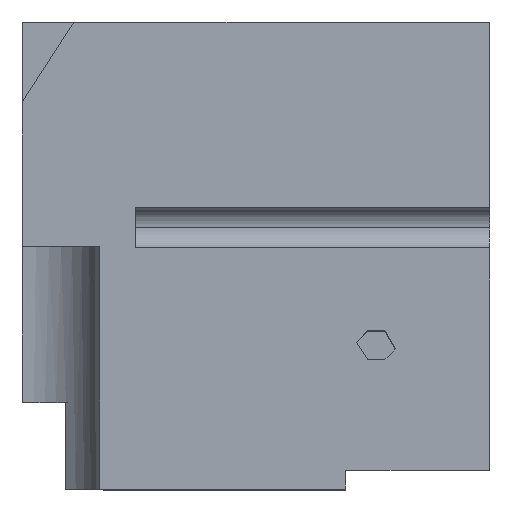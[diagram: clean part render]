
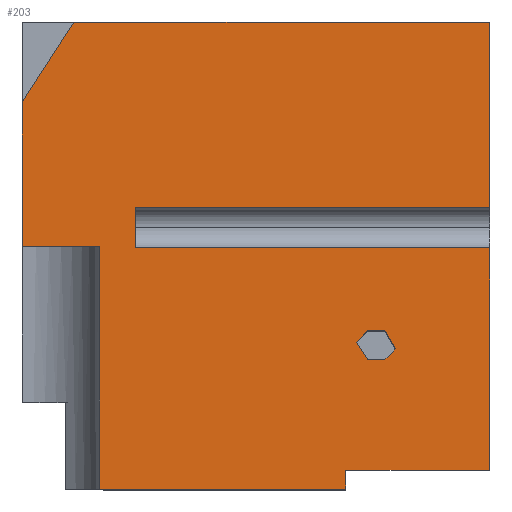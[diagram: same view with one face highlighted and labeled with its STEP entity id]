
A CAD part, top view. The second image highlights one B-rep face of the part: STEP entity #203.
In plain terms, the highlighted planar face has unit normal (0, 0, 1).
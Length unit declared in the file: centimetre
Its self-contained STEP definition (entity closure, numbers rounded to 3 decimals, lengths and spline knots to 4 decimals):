
#1 = VECTOR ( 'NONE', #453, 100. ) ;
#3 = LINE ( 'NONE', #862, #888 ) ;
#5 = VERTEX_POINT ( 'NONE', #664 ) ;
#10 = CARTESIAN_POINT ( 'NONE',  ( 692.0685, 0., 1000. ) ) ;
#12 = CARTESIAN_POINT ( 'NONE',  ( 739.4642, 277.8204, 1000. ) ) ;
#19 = CARTESIAN_POINT ( 'NONE',  ( 165.4097, 0., 1000. ) ) ;
#20 = VECTOR ( 'NONE', #293, 100. ) ;
#22 = VERTEX_POINT ( 'NONE', #864 ) ;
#23 = CARTESIAN_POINT ( 'NONE',  ( 1000., 1000., 1000. ) ) ;
#28 = EDGE_CURVE ( 'NONE', #1068, #166, #580, .T. ) ;
#44 = ORIENTED_EDGE ( 'NONE', *, *, #28, .T. ) ;
#45 = EDGE_CURVE ( 'NONE', #1140, #347, #187, .T. ) ;
#46 = CARTESIAN_POINT ( 'NONE',  ( 1000., 516.3748, 1000. ) ) ;
#58 = VERTEX_POINT ( 'NONE', #307 ) ;
#80 = ORIENTED_EDGE ( 'NONE', *, *, #1217, .T. ) ;
#82 = EDGE_CURVE ( 'NONE', #956, #58, #796, .T. ) ;
#90 = LINE ( 'NONE', #672, #288 ) ;
#93 = VERTEX_POINT ( 'NONE', #891 ) ;
#95 = CARTESIAN_POINT ( 'NONE',  ( 692.0685, 0., 1000. ) ) ;
#98 = LINE ( 'NONE', #384, #20 ) ;
#100 = LINE ( 'NONE', #10, #545 ) ;
#114 = LINE ( 'NONE', #883, #1145 ) ;
#121 = EDGE_CURVE ( 'NONE', #535, #1096, #114, .T. ) ;
#128 = EDGE_CURVE ( 'NONE', #22, #424, #100, .T. ) ;
#129 = CARTESIAN_POINT ( 'NONE',  ( 739.4642, 338.8694, 1000. ) ) ;
#140 = VERTEX_POINT ( 'NONE', #488 ) ;
#141 = VERTEX_POINT ( 'NONE', #19 ) ;
#153 = VERTEX_POINT ( 'NONE', #1176 ) ;
#166 = VERTEX_POINT ( 'NONE', #705 ) ;
#177 = DIRECTION ( 'NONE',  ( 0., 1., 0. ) ) ;
#187 = LINE ( 'NONE', #577, #1235 ) ;
#189 = CARTESIAN_POINT ( 'NONE',  ( 241.1081, 603.6279, 1000. ) ) ;
#202 = DIRECTION ( 'NONE',  ( 0., -1., 0. ) ) ;
#203 = ADVANCED_FACE ( 'NONE', ( #814, #807 ), #609, .T. ) ;
#213 = ORIENTED_EDGE ( 'NONE', *, *, #45, .F. ) ;
#214 = CARTESIAN_POINT ( 'NONE',  ( 798.3373, 300.2241, 1000. ) ) ;
#245 = VECTOR ( 'NONE', #1149, 100. ) ;
#266 = CARTESIAN_POINT ( 'NONE',  ( 715.2265, 314.6317, 1000. ) ) ;
#268 = CARTESIAN_POINT ( 'NONE',  ( 0., 519.0756, 1000. ) ) ;
#288 = VECTOR ( 'NONE', #463, 100. ) ;
#293 = DIRECTION ( 'NONE',  ( 0., 1., 0. ) ) ;
#307 = CARTESIAN_POINT ( 'NONE',  ( 775.9336, 277.8204, 1000. ) ) ;
#319 = AXIS2_PLACEMENT_3D ( 'NONE', #427, #800, #419 ) ;
#320 = CARTESIAN_POINT ( 'NONE',  ( 0., 1000., 1000. ) ) ;
#321 = CARTESIAN_POINT ( 'NONE',  ( 241.1081, 516.3748, 1000. ) ) ;
#334 = EDGE_LOOP ( 'NONE', ( #1012, #657, #949, #635, #213, #822 ) ) ;
#341 = CARTESIAN_POINT ( 'NONE',  ( 1000., 1000., 1000. ) ) ;
#347 = VERTEX_POINT ( 'NONE', #266 ) ;
#366 = VERTEX_POINT ( 'NONE', #737 ) ;
#377 = DIRECTION ( 'NONE',  ( 0., -1., 0. ) ) ;
#380 = LINE ( 'NONE', #481, #629 ) ;
#384 = CARTESIAN_POINT ( 'NONE',  ( 165.4097, 519.0756, 1000. ) ) ;
#417 = EDGE_CURVE ( 'NONE', #153, #140, #579, .T. ) ;
#419 = DIRECTION ( 'NONE',  ( 1., 0., 0. ) ) ;
#424 = VERTEX_POINT ( 'NONE', #95 ) ;
#427 = CARTESIAN_POINT ( 'NONE',  ( 0., 0., 1000. ) ) ;
#450 = CARTESIAN_POINT ( 'NONE',  ( 1000., 40.3197, 1000. ) ) ;
#453 = DIRECTION ( 'NONE',  ( 1., 0., 0. ) ) ;
#463 = DIRECTION ( 'NONE',  ( -1., 0., 0. ) ) ;
#481 = CARTESIAN_POINT ( 'NONE',  ( 241.1081, 0., 1000. ) ) ;
#484 = EDGE_CURVE ( 'NONE', #153, #535, #380, .T. ) ;
#488 = CARTESIAN_POINT ( 'NONE',  ( 1000., 603.6279, 1000. ) ) ;
#492 = ORIENTED_EDGE ( 'NONE', *, *, #778, .T. ) ;
#505 = DIRECTION ( 'NONE',  ( 1., 0., 0. ) ) ;
#510 = ORIENTED_EDGE ( 'NONE', *, *, #797, .T. ) ;
#512 = EDGE_CURVE ( 'NONE', #5, #1164, #777, .T. ) ;
#526 = ORIENTED_EDGE ( 'NONE', *, *, #963, .T. ) ;
#535 = VERTEX_POINT ( 'NONE', #321 ) ;
#544 = DIRECTION ( 'NONE',  ( 0., 1., 0. ) ) ;
#545 = VECTOR ( 'NONE', #202, 100. ) ;
#548 = VECTOR ( 'NONE', #666, 100. ) ;
#565 = LINE ( 'NONE', #1030, #548 ) ;
#577 = CARTESIAN_POINT ( 'NONE',  ( 739.4642, 338.8694, 1000. ) ) ;
#579 = LINE ( 'NONE', #189, #886 ) ;
#580 = LINE ( 'NONE', #268, #1 ) ;
#605 = VECTOR ( 'NONE', #873, 100. ) ;
#606 = VECTOR ( 'NONE', #544, 100. ) ;
#609 = PLANE ( 'NONE',  #319 ) ;
#629 = VECTOR ( 'NONE', #377, 100. ) ;
#630 = LINE ( 'NONE', #341, #606 ) ;
#635 = ORIENTED_EDGE ( 'NONE', *, *, #856, .F. ) ;
#647 = CARTESIAN_POINT ( 'NONE',  ( 109.6982, 1000., 1000. ) ) ;
#657 = ORIENTED_EDGE ( 'NONE', *, *, #871, .F. ) ;
#664 = CARTESIAN_POINT ( 'NONE',  ( 0., 829.1872, 1000. ) ) ;
#666 = DIRECTION ( 'NONE',  ( 1., 0., 0. ) ) ;
#672 = CARTESIAN_POINT ( 'NONE',  ( 775.9336, 338.8694, 1000. ) ) ;
#690 = VERTEX_POINT ( 'NONE', #450 ) ;
#697 = CARTESIAN_POINT ( 'NONE',  ( 739.4642, 277.8204, 1000. ) ) ;
#705 = CARTESIAN_POINT ( 'NONE',  ( 165.4097, 519.0756, 1000. ) ) ;
#728 = ORIENTED_EDGE ( 'NONE', *, *, #484, .F. ) ;
#732 = EDGE_CURVE ( 'NONE', #1013, #1164, #1022, .T. ) ;
#737 = CARTESIAN_POINT ( 'NONE',  ( 775.9336, 338.8694, 1000. ) ) ;
#744 = ORIENTED_EDGE ( 'NONE', *, *, #1119, .T. ) ;
#763 = LINE ( 'NONE', #1055, #835 ) ;
#768 = VECTOR ( 'NONE', #505, 100. ) ;
#774 = ORIENTED_EDGE ( 'NONE', *, *, #512, .F. ) ;
#777 = LINE ( 'NONE', #863, #605 ) ;
#778 = EDGE_CURVE ( 'NONE', #141, #424, #763, .T. ) ;
#796 = LINE ( 'NONE', #697, #768 ) ;
#797 = EDGE_CURVE ( 'NONE', #140, #1013, #940, .T. ) ;
#800 = DIRECTION ( 'NONE',  ( 0., 0., 1. ) ) ;
#803 = ORIENTED_EDGE ( 'NONE', *, *, #128, .F. ) ;
#807 = FACE_BOUND ( 'NONE', #334, .T. ) ;
#814 = FACE_OUTER_BOUND ( 'NONE', #1003, .T. ) ;
#822 = ORIENTED_EDGE ( 'NONE', *, *, #844, .F. ) ;
#835 = VECTOR ( 'NONE', #947, 100. ) ;
#844 = EDGE_CURVE ( 'NONE', #366, #1140, #90, .T. ) ;
#856 = EDGE_CURVE ( 'NONE', #347, #956, #3, .T. ) ;
#862 = CARTESIAN_POINT ( 'NONE',  ( 715.2265, 314.6317, 1000. ) ) ;
#863 = CARTESIAN_POINT ( 'NONE',  ( 0., 829.1872, 1000. ) ) ;
#864 = CARTESIAN_POINT ( 'NONE',  ( 692.0685, 40.3197, 1000. ) ) ;
#871 = EDGE_CURVE ( 'NONE', #58, #93, #1047, .T. ) ;
#873 = DIRECTION ( 'NONE',  ( 0.54, 0.841, 0. ) ) ;
#883 = CARTESIAN_POINT ( 'NONE',  ( 241.1081, 516.3748, 1000. ) ) ;
#886 = VECTOR ( 'NONE', #958, 100. ) ;
#888 = VECTOR ( 'NONE', #1247, 100. ) ;
#891 = CARTESIAN_POINT ( 'NONE',  ( 798.3373, 300.2241, 1000. ) ) ;
#893 = EDGE_CURVE ( 'NONE', #141, #166, #98, .T. ) ;
#930 = CARTESIAN_POINT ( 'NONE',  ( 0., 1000., 1000. ) ) ;
#940 = LINE ( 'NONE', #1137, #1111 ) ;
#947 = DIRECTION ( 'NONE',  ( 1., 0., 0. ) ) ;
#949 = ORIENTED_EDGE ( 'NONE', *, *, #82, .F. ) ;
#951 = VECTOR ( 'NONE', #1159, 100. ) ;
#956 = VERTEX_POINT ( 'NONE', #12 ) ;
#958 = DIRECTION ( 'NONE',  ( 1., 0., 0. ) ) ;
#963 = EDGE_CURVE ( 'NONE', #5, #1068, #1166, .T. ) ;
#972 = ORIENTED_EDGE ( 'NONE', *, *, #417, .T. ) ;
#973 = DIRECTION ( 'NONE',  ( 1., 0., 0. ) ) ;
#988 = DIRECTION ( 'NONE',  ( 0., -1., 0. ) ) ;
#1003 = EDGE_LOOP ( 'NONE', ( #774, #526, #44, #1158, #492, #803, #80, #744, #1208, #728, #972, #510, #1050 ) ) ;
#1012 = ORIENTED_EDGE ( 'NONE', *, *, #1040, .F. ) ;
#1013 = VERTEX_POINT ( 'NONE', #23 ) ;
#1022 = LINE ( 'NONE', #930, #1240 ) ;
#1029 = DIRECTION ( 'NONE',  ( -1., 0., 0. ) ) ;
#1030 = CARTESIAN_POINT ( 'NONE',  ( 692.0685, 40.3197, 1000. ) ) ;
#1040 = EDGE_CURVE ( 'NONE', #93, #366, #1080, .T. ) ;
#1047 = LINE ( 'NONE', #1251, #245 ) ;
#1050 = ORIENTED_EDGE ( 'NONE', *, *, #732, .T. ) ;
#1055 = CARTESIAN_POINT ( 'NONE',  ( 0., 0., 1000. ) ) ;
#1067 = VECTOR ( 'NONE', #988, 100. ) ;
#1068 = VERTEX_POINT ( 'NONE', #1220 ) ;
#1080 = LINE ( 'NONE', #214, #951 ) ;
#1096 = VERTEX_POINT ( 'NONE', #46 ) ;
#1111 = VECTOR ( 'NONE', #177, 100. ) ;
#1119 = EDGE_CURVE ( 'NONE', #690, #1096, #630, .T. ) ;
#1128 = DIRECTION ( 'NONE',  ( -0.707, -0.707, 0. ) ) ;
#1137 = CARTESIAN_POINT ( 'NONE',  ( 1000., 1000., 1000. ) ) ;
#1140 = VERTEX_POINT ( 'NONE', #129 ) ;
#1145 = VECTOR ( 'NONE', #973, 100. ) ;
#1149 = DIRECTION ( 'NONE',  ( 0.707, 0.707, 0. ) ) ;
#1158 = ORIENTED_EDGE ( 'NONE', *, *, #893, .F. ) ;
#1159 = DIRECTION ( 'NONE',  ( -0.502, 0.865, 0. ) ) ;
#1164 = VERTEX_POINT ( 'NONE', #647 ) ;
#1166 = LINE ( 'NONE', #320, #1067 ) ;
#1176 = CARTESIAN_POINT ( 'NONE',  ( 241.1081, 603.6279, 1000. ) ) ;
#1208 = ORIENTED_EDGE ( 'NONE', *, *, #121, .F. ) ;
#1217 = EDGE_CURVE ( 'NONE', #22, #690, #565, .T. ) ;
#1220 = CARTESIAN_POINT ( 'NONE',  ( 0., 519.0756, 1000. ) ) ;
#1235 = VECTOR ( 'NONE', #1128, 100. ) ;
#1240 = VECTOR ( 'NONE', #1029, 100. ) ;
#1247 = DIRECTION ( 'NONE',  ( 0.55, -0.835, 0. ) ) ;
#1251 = CARTESIAN_POINT ( 'NONE',  ( 775.9336, 277.8204, 1000. ) ) ;
